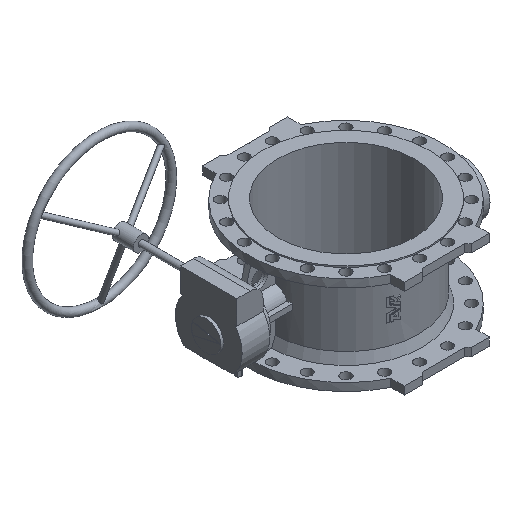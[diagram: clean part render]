
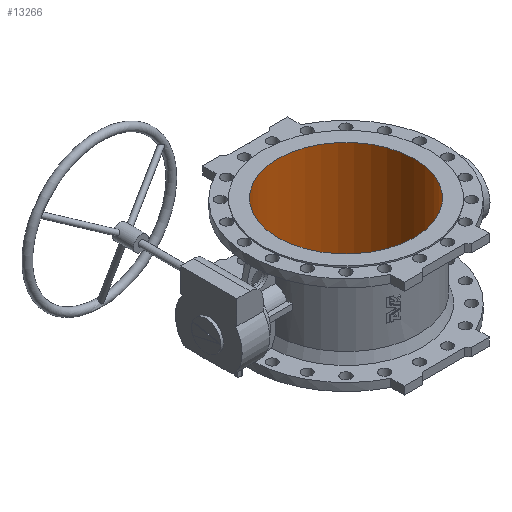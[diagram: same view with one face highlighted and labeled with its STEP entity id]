
A CAD part, isometric view. The second image highlights one B-rep face of the part: STEP entity #13266.
In plain terms, the highlighted cylindrical face has radius 225 mm (diameter 450 mm), a full revolution.
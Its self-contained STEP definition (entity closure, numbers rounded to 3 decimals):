
#88 = EDGE_LOOP ( 'NONE', ( #14084 ) ) ;
#89 = EDGE_LOOP ( 'NONE', ( #13939 ) ) ;
#1997 = FACE_OUTER_BOUND ( 'NONE', #88, .T. ) ;
#2002 = FACE_OUTER_BOUND ( 'NONE', #89, .T. ) ;
#2004 = CYLINDRICAL_SURFACE ( 'NONE', #16344, 225. ) ;
#2397 = CIRCLE ( 'NONE', #7361, 225. ) ;
#2450 = CIRCLE ( 'NONE', #7373, 225. ) ;
#4691 = DIRECTION ( 'NONE',  ( -1., 0., 0. ) ) ;
#4692 = CARTESIAN_POINT ( 'NONE',  ( 0., -3., 133.661 ) ) ;
#4693 = DIRECTION ( 'NONE',  ( 0., 0., 1. ) ) ;
#6821 = CARTESIAN_POINT ( 'NONE',  ( 0., -3., -165. ) ) ;
#6822 = DIRECTION ( 'NONE',  ( 0., 0., 1. ) ) ;
#6823 = DIRECTION ( 'NONE',  ( -1., 0., 0. ) ) ;
#6976 = CARTESIAN_POINT ( 'NONE',  ( 0., -3., 165. ) ) ;
#6977 = DIRECTION ( 'NONE',  ( 0., 0., 1. ) ) ;
#6978 = DIRECTION ( 'NONE',  ( -1., 0., 0. ) ) ;
#7361 = AXIS2_PLACEMENT_3D ( 'NONE', #6821, #6822, #6823 ) ;
#7373 = AXIS2_PLACEMENT_3D ( 'NONE', #6976, #6977, #6978 ) ;
#8970 = CARTESIAN_POINT ( 'NONE',  ( -225., -3., -165. ) ) ;
#8978 = CARTESIAN_POINT ( 'NONE',  ( -225., -3., 165. ) ) ;
#9174 = VERTEX_POINT ( 'NONE', #8970 ) ;
#9182 = VERTEX_POINT ( 'NONE', #8978 ) ;
#13266 = ADVANCED_FACE ( 'NONE', ( #1997, #2002 ), #2004, .F. ) ;
#13939 = ORIENTED_EDGE ( 'NONE', *, *, #15573, .T. ) ;
#14084 = ORIENTED_EDGE ( 'NONE', *, *, #15532, .F. ) ;
#15532 = EDGE_CURVE ( 'NONE', #9174, #9174, #2397, .T. ) ;
#15573 = EDGE_CURVE ( 'NONE', #9182, #9182, #2450, .T. ) ;
#16344 = AXIS2_PLACEMENT_3D ( 'NONE', #4692, #4693, #4691 ) ;
